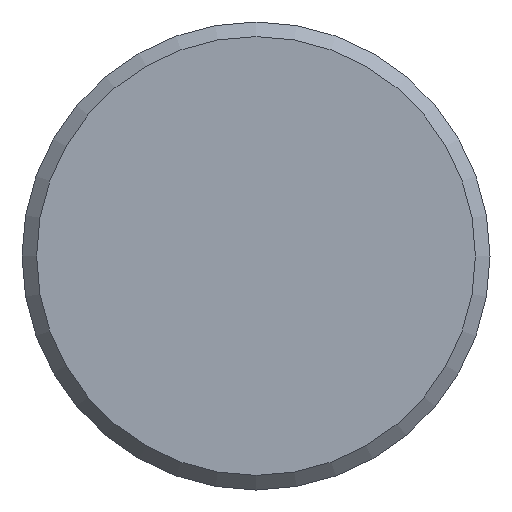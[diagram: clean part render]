
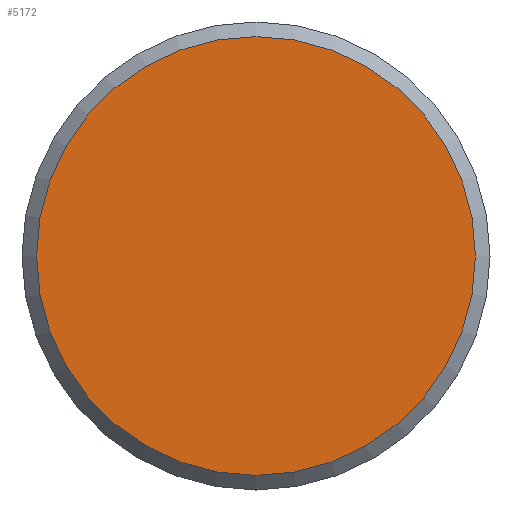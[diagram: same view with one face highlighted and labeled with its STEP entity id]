
A CAD part, left-side view. The second image highlights one B-rep face of the part: STEP entity #5172.
In plain terms, the highlighted planar face has unit normal (-1, 0, 0).
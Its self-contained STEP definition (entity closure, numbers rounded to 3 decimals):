
#1857=PLANE('',#4758);
#1923=ORIENTED_EDGE('',*,*,#2625,.F.);
#2273=CIRCLE('',#4757,7.5);
#2449=VERTEX_POINT('',#4225);
#2625=EDGE_CURVE('',#2449,#2449,#2273,.T.);
#2803=EDGE_LOOP('',(#1923));
#3155=FACE_BOUND('',#2803,.T.);
#3511=DIRECTION('',(1.,0.,0.));
#3512=DIRECTION('',(0.,-7.5,0.));
#3513=DIRECTION('',(-1.,0.,0.));
#3514=DIRECTION('',(0.,1.,0.));
#4225=CARTESIAN_POINT('',(23.403,159.462,0.));
#4226=CARTESIAN_POINT('',(23.403,166.962,0.));
#4227=CARTESIAN_POINT('',(23.403,166.962,0.));
#4757=AXIS2_PLACEMENT_3D('',#4226,#3511,#3512);
#4758=AXIS2_PLACEMENT_3D('',#4227,#3513,#3514);
#5172=ADVANCED_FACE('',(#3155),#1857,.T.);
